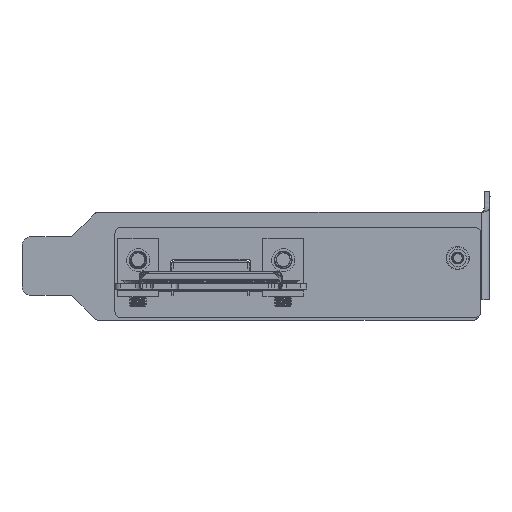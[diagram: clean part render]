
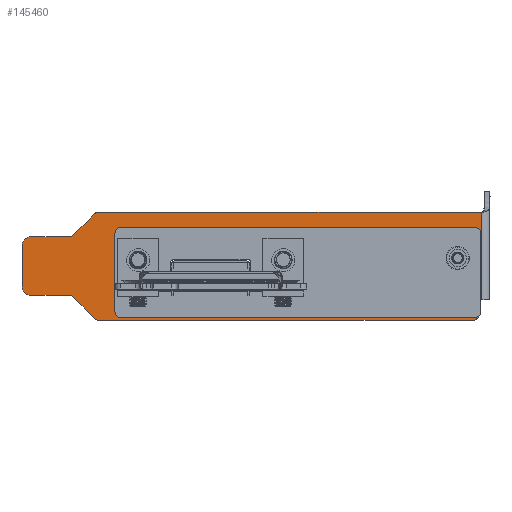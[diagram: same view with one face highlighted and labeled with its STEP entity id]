
A CAD part, front view. The second image highlights one B-rep face of the part: STEP entity #145460.
In plain terms, the highlighted planar face has unit normal (0, -1, 0) as drawn and (0, 0, 1) by its records, which use the part's own axes.
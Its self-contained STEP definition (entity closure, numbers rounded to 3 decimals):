
#144520 = VERTEX_POINT('',#144521);
#144521 = CARTESIAN_POINT('',(-3.4,1.96,-2.5));
#144529 = EDGE_CURVE('',#144530,#144520,#144532,.T.);
#144530 = VERTEX_POINT('',#144531);
#144531 = CARTESIAN_POINT('',(-14.1,1.96,-2.5));
#144532 = LINE('',#144533,#144534);
#144533 = CARTESIAN_POINT('',(-22.1,1.96,-2.5));
#144534 = VECTOR('',#144535,1.);
#144535 = DIRECTION('',(1.,0.,0.));
#144560 = EDGE_CURVE('',#144530,#144561,#144563,.T.);
#144561 = VERTEX_POINT('',#144562);
#144562 = CARTESIAN_POINT('',(-15.1,0.96,-2.5));
#144563 = CIRCLE('',#144564,1.);
#144564 = AXIS2_PLACEMENT_3D('',#144565,#144566,#144567);
#144565 = CARTESIAN_POINT('',(-14.1,0.96,-2.5));
#144566 = DIRECTION('',(-0.,0.,1.));
#144567 = DIRECTION('',(1.,0.,0.));
#144593 = EDGE_CURVE('',#144561,#144594,#144596,.T.);
#144594 = VERTEX_POINT('',#144595);
#144595 = CARTESIAN_POINT('',(-15.1,-45.04,-2.5));
#144596 = LINE('',#144597,#144598);
#144597 = CARTESIAN_POINT('',(-15.1,0.,-2.5));
#144598 = VECTOR('',#144599,1.);
#144599 = DIRECTION('',(-0.,-1.,0.));
#144624 = EDGE_CURVE('',#144594,#144625,#144627,.T.);
#144625 = VERTEX_POINT('',#144626);
#144626 = CARTESIAN_POINT('',(-14.1,-46.04,-2.5));
#144627 = CIRCLE('',#144628,1.);
#144628 = AXIS2_PLACEMENT_3D('',#144629,#144630,#144631);
#144629 = CARTESIAN_POINT('',(-14.1,-45.04,-2.5));
#144630 = DIRECTION('',(-0.,0.,1.));
#144631 = DIRECTION('',(1.,0.,0.));
#144657 = EDGE_CURVE('',#144625,#144658,#144660,.T.);
#144658 = VERTEX_POINT('',#144659);
#144659 = CARTESIAN_POINT('',(-3.4,-46.04,-2.5));
#144660 = LINE('',#144661,#144662);
#144661 = CARTESIAN_POINT('',(-22.1,-46.04,-2.5));
#144662 = VECTOR('',#144663,1.);
#144663 = DIRECTION('',(1.,0.,0.));
#144697 = VERTEX_POINT('',#144698);
#144698 = CARTESIAN_POINT('',(-2.4,-45.04,-2.5));
#144704 = EDGE_CURVE('',#144658,#144697,#144705,.T.);
#144705 = CIRCLE('',#144706,1.);
#144706 = AXIS2_PLACEMENT_3D('',#144707,#144708,#144709);
#144707 = CARTESIAN_POINT('',(-3.4,-45.04,-2.5));
#144708 = DIRECTION('',(-0.,0.,1.));
#144709 = DIRECTION('',(1.,0.,0.));
#144721 = EDGE_CURVE('',#144722,#144697,#144724,.T.);
#144722 = VERTEX_POINT('',#144723);
#144723 = CARTESIAN_POINT('',(-2.4,0.96,-2.5));
#144724 = LINE('',#144725,#144726);
#144725 = CARTESIAN_POINT('',(-2.4,0.,-2.5));
#144726 = VECTOR('',#144727,1.);
#144727 = DIRECTION('',(-0.,-1.,0.));
#144752 = VERTEX_POINT('',#144753);
#144753 = CARTESIAN_POINT('',(-3.5,9.5,-2.5));
#144761 = EDGE_CURVE('',#144762,#144752,#144764,.T.);
#144762 = VERTEX_POINT('',#144763);
#144763 = CARTESIAN_POINT('',(-3.5,9.1,-2.5));
#144764 = LINE('',#144765,#144766);
#144765 = CARTESIAN_POINT('',(-3.5,0.,-2.5));
#144766 = VECTOR('',#144767,1.);
#144767 = DIRECTION('',(0.,1.,-0.));
#144792 = EDGE_CURVE('',#144762,#144793,#144795,.T.);
#144793 = VERTEX_POINT('',#144794);
#144794 = CARTESIAN_POINT('',(-1.,9.1,-2.5));
#144795 = LINE('',#144796,#144797);
#144796 = CARTESIAN_POINT('',(-22.1,9.1,-2.5));
#144797 = VECTOR('',#144798,1.);
#144798 = DIRECTION('',(1.,0.,0.));
#144823 = EDGE_CURVE('',#144824,#144793,#144826,.T.);
#144824 = VERTEX_POINT('',#144825);
#144825 = CARTESIAN_POINT('',(0.,8.1,-2.5));
#144826 = CIRCLE('',#144827,1.);
#144827 = AXIS2_PLACEMENT_3D('',#144828,#144829,#144830);
#144828 = CARTESIAN_POINT('',(-1.,8.1,-2.5));
#144829 = DIRECTION('',(-0.,0.,1.));
#144830 = DIRECTION('',(1.,0.,0.));
#144856 = EDGE_CURVE('',#144824,#144857,#144859,.T.);
#144857 = VERTEX_POINT('',#144858);
#144858 = CARTESIAN_POINT('',(0.,-56.406,
    -2.5));
#144859 = LINE('',#144860,#144861);
#144860 = CARTESIAN_POINT('',(0.,0.,-2.5));
#144861 = VECTOR('',#144862,1.);
#144862 = DIRECTION('',(-0.,-1.,0.));
#144887 = EDGE_CURVE('',#144888,#144857,#144890,.T.);
#144888 = VERTEX_POINT('',#144889);
#144889 = CARTESIAN_POINT('',(-0.293,-57.114,
    -2.5));
#144890 = CIRCLE('',#144891,1.);
#144891 = AXIS2_PLACEMENT_3D('',#144892,#144893,#144894);
#144892 = CARTESIAN_POINT('',(-1.,-56.406,
    -2.5));
#144893 = DIRECTION('',(-0.,0.,1.));
#144894 = DIRECTION('',(1.,0.,0.));
#144920 = EDGE_CURVE('',#144921,#144888,#144923,.T.);
#144921 = VERTEX_POINT('',#144922);
#144922 = CARTESIAN_POINT('',(-4.25,-61.071,
    -2.5));
#144923 = LINE('',#144924,#144925);
#144924 = CARTESIAN_POINT('',(17.36,-39.46,
    -2.5));
#144925 = VECTOR('',#144926,1.);
#144926 = DIRECTION('',(0.707,0.707,0.));
#144951 = EDGE_CURVE('',#144952,#144921,#144954,.T.);
#144952 = VERTEX_POINT('',#144953);
#144953 = CARTESIAN_POINT('',(-4.25,-68.1,
    -2.5));
#144954 = LINE('',#144955,#144956);
#144955 = CARTESIAN_POINT('',(-4.25,0.,-2.5));
#144956 = VECTOR('',#144957,1.);
#144957 = DIRECTION('',(0.,1.,-0.));
#144982 = EDGE_CURVE('',#144983,#144952,#144985,.T.);
#144983 = VERTEX_POINT('',#144984);
#144984 = CARTESIAN_POINT('',(-5.75,-69.6,
    -2.5));
#144985 = CIRCLE('',#144986,1.5);
#144986 = AXIS2_PLACEMENT_3D('',#144987,#144988,#144989);
#144987 = CARTESIAN_POINT('',(-5.75,-68.1,
    -2.5));
#144988 = DIRECTION('',(-0.,0.,1.));
#144989 = DIRECTION('',(1.,0.,0.));
#145015 = EDGE_CURVE('',#145016,#144983,#145018,.T.);
#145016 = VERTEX_POINT('',#145017);
#145017 = CARTESIAN_POINT('',(-12.85,-69.6,-2.5));
#145018 = LINE('',#145019,#145020);
#145019 = CARTESIAN_POINT('',(-22.1,-69.6,-2.5));
#145020 = VECTOR('',#145021,1.);
#145021 = DIRECTION('',(1.,0.,0.));
#145046 = EDGE_CURVE('',#145047,#145016,#145049,.T.);
#145047 = VERTEX_POINT('',#145048);
#145048 = CARTESIAN_POINT('',(-14.35,-68.1,
    -2.5));
#145049 = CIRCLE('',#145050,1.5);
#145050 = AXIS2_PLACEMENT_3D('',#145051,#145052,#145053);
#145051 = CARTESIAN_POINT('',(-12.85,-68.1,
    -2.5));
#145052 = DIRECTION('',(-0.,0.,1.));
#145053 = DIRECTION('',(1.,0.,0.));
#145079 = EDGE_CURVE('',#145080,#145047,#145082,.T.);
#145080 = VERTEX_POINT('',#145081);
#145081 = CARTESIAN_POINT('',(-14.35,-61.071,
    -2.5));
#145082 = LINE('',#145083,#145084);
#145083 = CARTESIAN_POINT('',(-14.35,0.,-2.5));
#145084 = VECTOR('',#145085,1.);
#145085 = DIRECTION('',(-0.,-1.,0.));
#145110 = EDGE_CURVE('',#145111,#145080,#145113,.T.);
#145111 = VERTEX_POINT('',#145112);
#145112 = CARTESIAN_POINT('',(-18.307,-57.114,
    -2.5));
#145113 = LINE('',#145114,#145115);
#145114 = CARTESIAN_POINT('',(-48.76,-26.66,
    -2.5));
#145115 = VECTOR('',#145116,1.);
#145116 = DIRECTION('',(0.707,-0.707,0.));
#145141 = EDGE_CURVE('',#145142,#145111,#145144,.T.);
#145142 = VERTEX_POINT('',#145143);
#145143 = CARTESIAN_POINT('',(-18.6,-56.406,
    -2.5));
#145144 = CIRCLE('',#145145,1.);
#145145 = AXIS2_PLACEMENT_3D('',#145146,#145147,#145148);
#145146 = CARTESIAN_POINT('',(-17.6,-56.406,
    -2.5));
#145147 = DIRECTION('',(-0.,0.,1.));
#145148 = DIRECTION('',(1.,0.,0.));
#145174 = EDGE_CURVE('',#145175,#145142,#145177,.T.);
#145175 = VERTEX_POINT('',#145176);
#145176 = CARTESIAN_POINT('',(-18.6,9.5,-2.5));
#145177 = LINE('',#145178,#145179);
#145178 = CARTESIAN_POINT('',(-18.6,0.,-2.5));
#145179 = VECTOR('',#145180,1.);
#145180 = DIRECTION('',(-0.,-1.,0.));
#145306 = VERTEX_POINT('',#145307);
#145307 = CARTESIAN_POINT('',(-8.9,5.46,-2.5));
#145312 = EDGE_CURVE('',#145306,#145306,#145313,.T.);
#145313 = CIRCLE('',#145314,1.6);
#145314 = AXIS2_PLACEMENT_3D('',#145315,#145316,#145317);
#145315 = CARTESIAN_POINT('',(-10.5,5.46,-2.5));
#145316 = DIRECTION('',(-0.,0.,1.));
#145317 = DIRECTION('',(1.,0.,0.));
#145328 = EDGE_CURVE('',#144722,#144520,#145329,.T.);
#145329 = CIRCLE('',#145330,1.);
#145330 = AXIS2_PLACEMENT_3D('',#145331,#145332,#145333);
#145331 = CARTESIAN_POINT('',(-3.4,0.96,-2.5));
#145332 = DIRECTION('',(-0.,0.,1.));
#145333 = DIRECTION('',(1.,0.,0.));
#145362 = VERTEX_POINT('',#145363);
#145363 = CARTESIAN_POINT('',(-8.9,-49.54,-2.5));
#145368 = EDGE_CURVE('',#145362,#145362,#145369,.T.);
#145369 = CIRCLE('',#145370,1.6);
#145370 = AXIS2_PLACEMENT_3D('',#145371,#145372,#145373);
#145371 = CARTESIAN_POINT('',(-10.5,-49.54,-2.5));
#145372 = DIRECTION('',(-0.,0.,1.));
#145373 = DIRECTION('',(1.,0.,0.));
#145460 = ADVANCED_FACE('',(#145461,#145464,#145474,#145477),#145499,.T.
  );
#145461 = FACE_BOUND('',#145462,.T.);
#145462 = EDGE_LOOP('',(#145463));
#145463 = ORIENTED_EDGE('',*,*,#145312,.F.);
#145464 = FACE_BOUND('',#145465,.T.);
#145465 = EDGE_LOOP('',(#145466,#145467,#145468,#145469,#145470,#145471,
    #145472,#145473));
#145466 = ORIENTED_EDGE('',*,*,#144721,.T.);
#145467 = ORIENTED_EDGE('',*,*,#144704,.F.);
#145468 = ORIENTED_EDGE('',*,*,#144657,.F.);
#145469 = ORIENTED_EDGE('',*,*,#144624,.F.);
#145470 = ORIENTED_EDGE('',*,*,#144593,.F.);
#145471 = ORIENTED_EDGE('',*,*,#144560,.F.);
#145472 = ORIENTED_EDGE('',*,*,#144529,.T.);
#145473 = ORIENTED_EDGE('',*,*,#145328,.F.);
#145474 = FACE_BOUND('',#145475,.T.);
#145475 = EDGE_LOOP('',(#145476));
#145476 = ORIENTED_EDGE('',*,*,#145368,.F.);
#145477 = FACE_BOUND('',#145478,.T.);
#145478 = EDGE_LOOP('',(#145479,#145480,#145481,#145482,#145483,#145484,
    #145485,#145486,#145487,#145488,#145489,#145490,#145491,#145492,
    #145493));
#145479 = ORIENTED_EDGE('',*,*,#145174,.T.);
#145480 = ORIENTED_EDGE('',*,*,#145141,.T.);
#145481 = ORIENTED_EDGE('',*,*,#145110,.T.);
#145482 = ORIENTED_EDGE('',*,*,#145079,.T.);
#145483 = ORIENTED_EDGE('',*,*,#145046,.T.);
#145484 = ORIENTED_EDGE('',*,*,#145015,.T.);
#145485 = ORIENTED_EDGE('',*,*,#144982,.T.);
#145486 = ORIENTED_EDGE('',*,*,#144951,.T.);
#145487 = ORIENTED_EDGE('',*,*,#144920,.T.);
#145488 = ORIENTED_EDGE('',*,*,#144887,.T.);
#145489 = ORIENTED_EDGE('',*,*,#144856,.F.);
#145490 = ORIENTED_EDGE('',*,*,#144823,.T.);
#145491 = ORIENTED_EDGE('',*,*,#144792,.F.);
#145492 = ORIENTED_EDGE('',*,*,#144761,.T.);
#145493 = ORIENTED_EDGE('',*,*,#145494,.F.);
#145494 = EDGE_CURVE('',#145175,#144752,#145495,.T.);
#145495 = LINE('',#145496,#145497);
#145496 = CARTESIAN_POINT('',(-22.1,9.5,-2.5));
#145497 = VECTOR('',#145498,1.);
#145498 = DIRECTION('',(1.,0.,0.));
#145499 = PLANE('',#145500);
#145500 = AXIS2_PLACEMENT_3D('',#145501,#145502,#145503);
#145501 = CARTESIAN_POINT('',(-22.1,0.,-2.5));
#145502 = DIRECTION('',(-0.,0.,1.));
#145503 = DIRECTION('',(1.,0.,0.));
